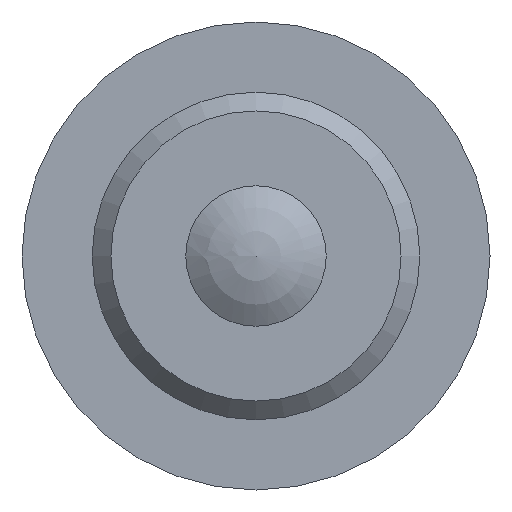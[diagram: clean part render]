
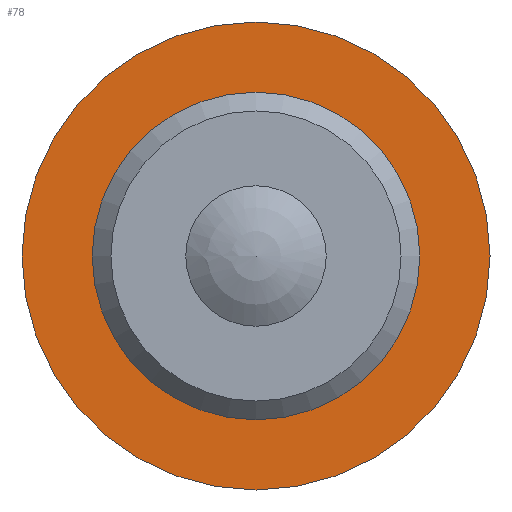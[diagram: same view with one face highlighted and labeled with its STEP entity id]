
A CAD part, front view. The second image highlights one B-rep face of the part: STEP entity #78.
In plain terms, the highlighted planar face has unit normal (0, -1, 0).
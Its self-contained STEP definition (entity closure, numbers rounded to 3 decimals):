
#78 = ADVANCED_FACE( '', ( #109, #110 ), #111, .F. );
#109 = FACE_BOUND( '', #171, .T. );
#110 = FACE_OUTER_BOUND( '', #172, .T. );
#111 = PLANE( '', #173 );
#171 = EDGE_LOOP( '', ( #239 ) );
#172 = EDGE_LOOP( '', ( #240 ) );
#173 = AXIS2_PLACEMENT_3D( '', #241, #242, #243 );
#239 = ORIENTED_EDGE( '', *, *, #399, .F. );
#240 = ORIENTED_EDGE( '', *, *, #397, .T. );
#241 = CARTESIAN_POINT( '', ( 10., 0., 0. ) );
#242 = DIRECTION( '', ( 0., 1., 0. ) );
#243 = DIRECTION( '', ( 0., 0., 1. ) );
#397 = EDGE_CURVE( '', #447, #447, #448, .T. );
#399 = EDGE_CURVE( '', #451, #451, #452, .T. );
#447 = VERTEX_POINT( '', #529 );
#448 = CIRCLE( '', #530, 10. );
#451 = VERTEX_POINT( '', #533 );
#452 = CIRCLE( '', #534, 7. );
#529 = CARTESIAN_POINT( '', ( 0., 0., -10. ) );
#530 = AXIS2_PLACEMENT_3D( '', #637, #638, #639 );
#533 = CARTESIAN_POINT( '', ( 0., 0., -7. ) );
#534 = AXIS2_PLACEMENT_3D( '', #643, #644, #645 );
#637 = CARTESIAN_POINT( '', ( 0., 0., 0. ) );
#638 = DIRECTION( '', ( 0., -1., 0. ) );
#639 = DIRECTION( '', ( 0., 0., -1. ) );
#643 = CARTESIAN_POINT( '', ( 0., 0., 0. ) );
#644 = DIRECTION( '', ( 0., -1., 0. ) );
#645 = DIRECTION( '', ( 0., 0., -1. ) );
